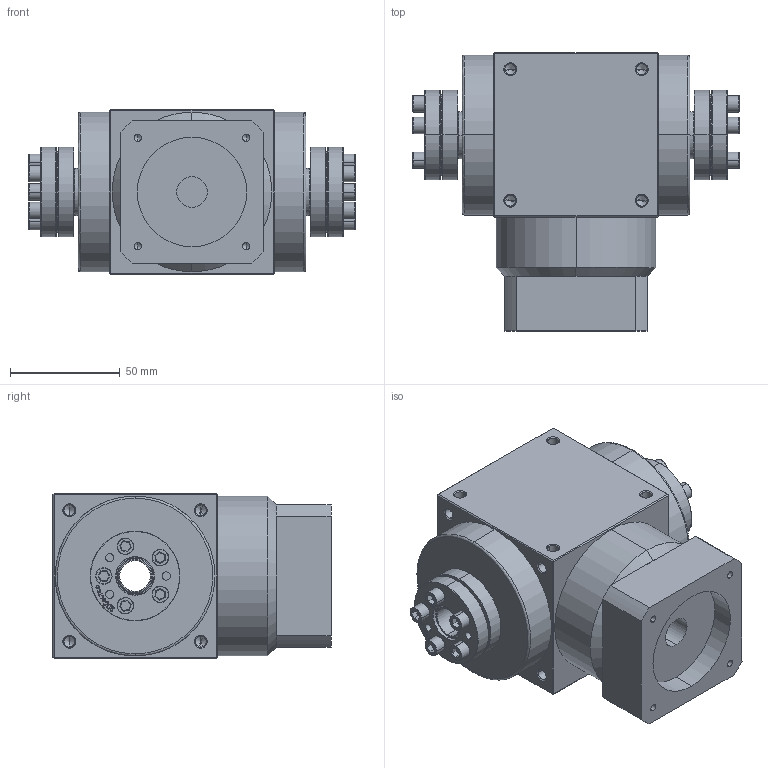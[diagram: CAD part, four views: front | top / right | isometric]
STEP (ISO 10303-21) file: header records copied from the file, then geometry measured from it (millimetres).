
FILE_DESCRIPTION (( 'STEP AP214' ), '1' );
FILE_NAME ('AT075-FC-001--14-50-70-M4.STEP', '2020-10-08T07:12:12', ( '微软用户' ), ( '微软中国' ), 'SwSTEP 2.0', 'SolidWorks 2014', '' );
FILE_SCHEMA (( 'AUTOMOTIVE_DESIGN' ));
Length unit declared in the file: millimetre
Products named in the file (6): AT075-FC-001--14-50-70-M4; 83_16x41
Assembly tree (3 placements, depth 2):
  AT075-FC-001--14-50-70-M4
    AT075-FC-001--14-50-70-M4
    83_16x41  x2
  83_16x41
  83_16x41
  AT075-FC-001--14-50-70-M4
Bounding box: 149 x 127 x 75 mm (x, y, z)
Volume: 748822.4 mm3; surface area: 90662.2 mm2
Topology: 19 solids, 19 shells, 947 faces, 2282 edges, 1372 vertices
Faces by surface type: cylinder 406, plane 243, cone 214, bspline 44, torus 40
Entity records: 18035 total; most frequent: CARTESIAN_POINT 4105, DIRECTION 2950, ORIENTED_EDGE 2848, EDGE_CURVE 1424, AXIS2_PLACEMENT_3D 1141, VERTEX_POINT 870, EDGE_LOOP 690, VECTOR 668
